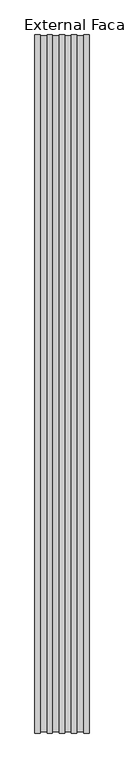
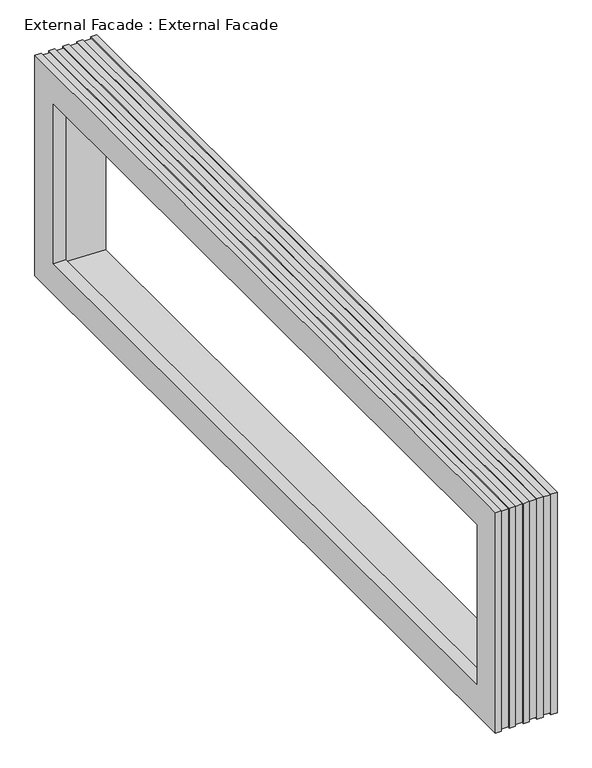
"""IFC4 building model written with IfcOpenShell, lengths in millimetres: proxy geometry, External Facade : External Facade."""

from ifc_helpers import new_model, si_unit, origin, place, context, project, spatial, faceted_brep, source, transform, mapped, element, save


def external_facade_external_facade_a6410b1e(model_context):
    return source(origin(), model_context, "Body", "Brep", [
        faceted_brep([(44093.2942367, 9045.537589, 3961.9570701), (43293.2942367, 8918.8300368, 4088.6646224), (43293.2942367, -3236.3407185, 4088.6646224), (44093.2942367, -3363.0482707, 3961.9570701), (43868.2942367, 9272.4946591, 3735.0), (43993.2942367, 9272.4946591, 3735.0), (43993.2942367, -3590.0053409, 3735.0), (43868.2942367, -3590.0053409, 3735.0), (43293.2942367, 8772.4946591, 4235.0), (43093.2942367, 8772.4946591, 4235.0), (43093.2942367, -3090.0053409, 4235.0), (43293.2942367, -3090.0053409, 4235.0), (43293.2942367, -3236.3407185, 7111.3353776), (44093.2942367, -3363.0482707, 7238.0429299), (43993.2942367, -3590.0053409, 7465.0), (43868.2942367, -3590.0053409, 7465.0), (43093.2942367, -3090.0053409, 6965.0), (43293.2942367, -3090.0053409, 6965.0), (43293.2942367, 8918.8300368, 7111.3353776), (44093.2942367, 9045.537589, 7238.0429299), (43993.2942367, 9272.4946591, 7465.0), (43868.2942367, 9272.4946591, 7465.0), (43093.2942367, 8772.4946591, 6965.0), (43293.2942367, 8772.4946591, 6965.0), (44093.2942367, 9292.4946591, 3715.0), (44093.2942367, 9292.4946591, 7485.0), (44093.2942367, -3610.0053409, 7485.0), (44093.2942367, -3610.0053409, 3715.0), (43093.2942367, -3610.0053409, 3715.0), (43093.2942367, -3610.0053409, 7485.0), (43093.2942367, 9292.4946591, 7485.0), (43093.2942367, 9292.4946591, 3715.0), (43993.2942367, 9292.4946591, 3715.0), (43993.2942367, -3610.0053409, 3715.0), (43768.2942367, 9292.4946591, 3715.0), (43868.2942367, 9292.4946591, 3715.0), (43868.2942367, -3610.0053409, 3715.0), (43768.2942367, -3610.0053409, 3715.0), (43643.2942367, 9272.4946591, 3735.0), (43768.2942367, 9272.4946591, 3735.0), (43768.2942367, -3590.0053409, 3735.0), (43643.2942367, -3590.0053409, 3735.0), (43543.2942367, 9292.4946591, 3715.0), (43643.2942367, 9292.4946591, 3715.0), (43643.2942367, -3610.0053409, 3715.0), (43543.2942367, -3610.0053409, 3715.0), (43418.2942367, 9272.4946591, 3735.0), (43543.2942367, 9272.4946591, 3735.0), (43543.2942367, -3590.0053409, 3735.0), (43418.2942367, -3590.0053409, 3735.0), (43318.2942367, 9292.4946591, 3715.0), (43418.2942367, 9292.4946591, 3715.0), (43418.2942367, -3610.0053409, 3715.0), (43318.2942367, -3610.0053409, 3715.0), (43193.2942367, 9272.4946591, 3735.0), (43318.2942367, 9272.4946591, 3735.0), (43318.2942367, -3590.0053409, 3735.0), (43193.2942367, -3590.0053409, 3735.0), (43193.2942367, 9292.4946591, 3715.0), (43193.2942367, -3610.0053409, 3715.0), (43993.2942367, -3610.0053409, 7485.0), (43868.2942367, -3610.0053409, 7485.0), (43768.2942367, -3610.0053409, 7485.0), (43768.2942367, -3590.0053409, 7465.0), (43643.2942367, -3590.0053409, 7465.0), (43643.2942367, -3610.0053409, 7485.0), (43543.2942367, -3610.0053409, 7485.0), (43543.2942367, -3590.0053409, 7465.0), (43418.2942367, -3590.0053409, 7465.0), (43418.2942367, -3610.0053409, 7485.0), (43318.2942367, -3610.0053409, 7485.0), (43318.2942367, -3590.0053409, 7465.0), (43193.2942367, -3590.0053409, 7465.0), (43193.2942367, -3610.0053409, 7485.0), (43993.2942367, 9292.4946591, 7485.0), (43868.2942367, 9292.4946591, 7485.0), (43768.2942367, 9292.4946591, 7485.0), (43768.2942367, 9272.4946591, 7465.0), (43643.2942367, 9272.4946591, 7465.0), (43643.2942367, 9292.4946591, 7485.0), (43543.2942367, 9292.4946591, 7485.0), (43543.2942367, 9272.4946591, 7465.0), (43418.2942367, 9272.4946591, 7465.0), (43418.2942367, 9292.4946591, 7485.0), (43318.2942367, 9292.4946591, 7485.0), (43318.2942367, 9272.4946591, 7465.0), (43193.2942367, 9272.4946591, 7465.0), (43193.2942367, 9292.4946591, 7485.0)], [[[0, 1, 2, 3]], [[4, 5, 6, 7]], [[8, 9, 10, 11]], [[3, 2, 12, 13]], [[7, 6, 14, 15]], [[11, 10, 16, 17]], [[13, 12, 18, 19]], [[15, 14, 20, 21]], [[17, 16, 22, 23]], [[1, 18, 12, 2], [11, 17, 23, 8]], [[19, 18, 1, 0]], [[24, 25, 26, 27], [3, 13, 19, 0]], [[21, 20, 5, 4]], [[28, 29, 30, 31], [9, 22, 16, 10]], [[23, 22, 9, 8]], [[32, 24, 27, 33]], [[34, 35, 36, 37]], [[38, 39, 40, 41]], [[42, 43, 44, 45]], [[46, 47, 48, 49]], [[50, 51, 52, 53]], [[54, 55, 56, 57]], [[31, 58, 59, 28]], [[33, 27, 26, 60]], [[37, 36, 61, 62]], [[41, 40, 63, 64]], [[45, 44, 65, 66]], [[49, 48, 67, 68]], [[53, 52, 69, 70]], [[57, 56, 71, 72]], [[28, 59, 73, 29]], [[60, 26, 25, 74]], [[62, 61, 75, 76]], [[64, 63, 77, 78]], [[66, 65, 79, 80]], [[68, 67, 81, 82]], [[70, 69, 83, 84]], [[72, 71, 85, 86]], [[29, 73, 87, 30]], [[74, 25, 24, 32]], [[33, 60, 74, 32], [5, 20, 14, 6]], [[35, 75, 61, 36], [7, 15, 21, 4]], [[76, 75, 35, 34]], [[37, 62, 76, 34], [39, 77, 63, 40]], [[78, 77, 39, 38]], [[43, 79, 65, 44], [41, 64, 78, 38]], [[80, 79, 43, 42]], [[45, 66, 80, 42], [47, 81, 67, 48]], [[82, 81, 47, 46]], [[51, 83, 69, 52], [49, 68, 82, 46]], [[84, 83, 51, 50]], [[53, 70, 84, 50], [55, 85, 71, 56]], [[86, 85, 55, 54]], [[58, 87, 73, 59], [57, 72, 86, 54]], [[30, 87, 58, 31]]]),
    ])


if __name__ == "__main__":
    model = new_model("IFC4")
    model_context = context("Model", 3, world=origin())
    ifc_project = project(units=[si_unit("LENGTHUNIT", "METRE", prefix="MILLI")], contexts=[model_context])
    site = spatial("IfcSite", under=ifc_project)
    building = spatial("IfcBuilding", under=site)
    placement = place(None, origin())
    external_facade_external_facade_shape = external_facade_external_facade_a6410b1e(model_context)
    element("IfcBuildingElementProxy", 1, Name="External Facade : External Facade", ObjectType="External Facade : External Facade", at=placement, inside=building, context=model_context, shape_type="MappedRepresentation", body=[
        mapped(external_facade_external_facade_shape, transform((0.0, 0.0, 0.0), x_axis=(1.0, 0.0, 0.0), y_axis=(0.0, 1.0, 0.0), z_axis=(0.0, 0.0, 1.0))),
    ])
    save(model, "model.ifc")
